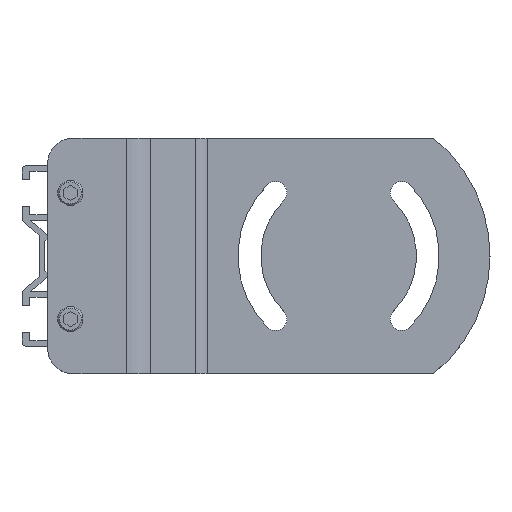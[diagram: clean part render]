
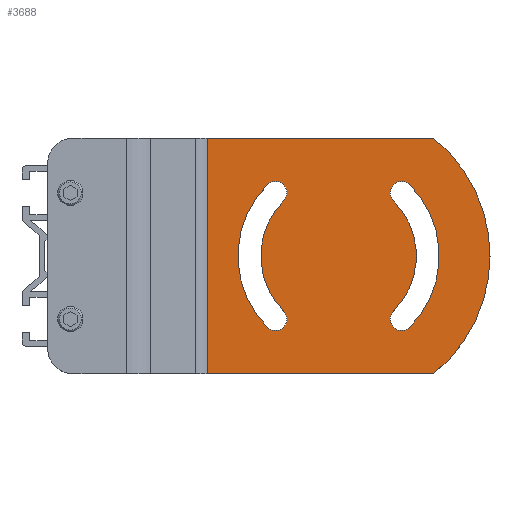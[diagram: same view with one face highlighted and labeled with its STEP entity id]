
A CAD part, left-side view. The second image highlights one B-rep face of the part: STEP entity #3688.
In plain terms, the highlighted planar face has unit normal (-1, 0, 0) as drawn and (0, 0, -1) by its records, which use the part's own axes.
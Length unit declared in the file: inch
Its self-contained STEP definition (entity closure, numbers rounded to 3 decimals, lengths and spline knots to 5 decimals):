
#3079=DIRECTION('',(0.,-1.,0.));
#3080=VECTOR('',#3079,3.36221);
#3081=CARTESIAN_POINT('',(0.,4.198,-0.25));
#3082=LINE('',#3081,#3080);
#3119=DIRECTION('',(0.,-1.,0.));
#3120=VECTOR('',#3119,3.36221);
#3121=CARTESIAN_POINT('',(-3.5,4.198,-0.25));
#3122=LINE('',#3121,#3120);
#3131=CARTESIAN_POINT('',(-1.75,2.25,-0.25));
#3132=DIRECTION('',(0.,0.,1.));
#3133=DIRECTION('',(0.,-1.,0.));
#3134=AXIS2_PLACEMENT_3D('',#3131,#3132,#3133);
#3136=DIRECTION('',(-1.,0.,0.));
#3137=VECTOR('',#3136,3.5);
#3138=CARTESIAN_POINT('',(0.,4.198,-0.25));
#3139=LINE('',#3138,#3137);
#3140=CARTESIAN_POINT('',(-1.75,2.25,-0.25));
#3141=DIRECTION('',(0.,0.,1.));
#3142=DIRECTION('',(-0.778,-0.629,0.));
#3143=AXIS2_PLACEMENT_3D('',#3140,#3141,#3142);
#3145=CARTESIAN_POINT('',(-1.75,2.25,-0.25));
#3146=DIRECTION('',(0.,0.,1.));
#3147=DIRECTION('',(-0.707,-0.707,0.));
#3148=AXIS2_PLACEMENT_3D('',#3145,#3146,#3147);
#3150=CARTESIAN_POINT('',(-0.81238,1.31238,-0.25));
#3151=DIRECTION('',(0.,0.,1.));
#3152=DIRECTION('',(0.707,-0.707,0.));
#3153=AXIS2_PLACEMENT_3D('',#3150,#3151,#3152);
#3155=CARTESIAN_POINT('',(-1.75,2.25,-0.25));
#3156=DIRECTION('',(0.,0.,1.));
#3157=DIRECTION('',(-0.707,-0.707,0.));
#3158=AXIS2_PLACEMENT_3D('',#3155,#3156,#3157);
#3160=CARTESIAN_POINT('',(-2.68762,1.31238,-0.25));
#3161=DIRECTION('',(0.,0.,1.));
#3162=DIRECTION('',(0.707,0.707,0.));
#3163=AXIS2_PLACEMENT_3D('',#3160,#3161,#3162);
#3165=CARTESIAN_POINT('',(-1.75,2.25,-0.25));
#3166=DIRECTION('',(0.,0.,1.));
#3167=DIRECTION('',(0.707,0.707,0.));
#3168=AXIS2_PLACEMENT_3D('',#3165,#3166,#3167);
#3170=CARTESIAN_POINT('',(-2.68762,3.18762,-0.25));
#3171=DIRECTION('',(0.,0.,1.));
#3172=DIRECTION('',(-0.707,0.707,0.));
#3173=AXIS2_PLACEMENT_3D('',#3170,#3171,#3172);
#3175=CARTESIAN_POINT('',(-1.75,2.25,-0.25));
#3176=DIRECTION('',(0.,0.,1.));
#3177=DIRECTION('',(0.707,0.707,0.));
#3178=AXIS2_PLACEMENT_3D('',#3175,#3176,#3177);
#3180=CARTESIAN_POINT('',(-0.81238,3.18762,-0.25));
#3181=DIRECTION('',(0.,0.,1.));
#3182=DIRECTION('',(-0.707,-0.707,0.));
#3183=AXIS2_PLACEMENT_3D('',#3180,#3181,#3182);
#3431=CARTESIAN_POINT('',(0.,4.198,-0.25));
#3432=VERTEX_POINT('',#3431);
#3439=CARTESIAN_POINT('',(-3.5,4.198,-0.25));
#3440=VERTEX_POINT('',#3439);
#3459=CARTESIAN_POINT('',(-3.5,0.83579,-0.25));
#3460=VERTEX_POINT('',#3459);
#3465=CARTESIAN_POINT('',(-1.75,0.,-0.25));
#3466=CARTESIAN_POINT('',(0.,0.83579,-0.25));
#3467=VERTEX_POINT('',#3465);
#3468=VERTEX_POINT('',#3466);
#3485=CARTESIAN_POINT('',(-0.93258,3.06742,-0.25));
#3486=CARTESIAN_POINT('',(-2.56742,3.06742,-0.25));
#3487=VERTEX_POINT('',#3485);
#3488=VERTEX_POINT('',#3486);
#3489=CARTESIAN_POINT('',(-2.80783,3.30783,-0.25));
#3490=VERTEX_POINT('',#3489);
#3491=CARTESIAN_POINT('',(-0.69217,3.30783,-0.25));
#3492=VERTEX_POINT('',#3491);
#3493=CARTESIAN_POINT('',(-2.56742,1.43258,-0.25));
#3494=CARTESIAN_POINT('',(-0.93258,1.43258,-0.25));
#3495=VERTEX_POINT('',#3493);
#3496=VERTEX_POINT('',#3494);
#3497=CARTESIAN_POINT('',(-0.69217,1.19217,-0.25));
#3498=VERTEX_POINT('',#3497);
#3499=CARTESIAN_POINT('',(-2.80783,1.19217,-0.25));
#3500=VERTEX_POINT('',#3499);
#3655=CARTESIAN_POINT('',(0.,4.198,-0.25));
#3656=DIRECTION('',(0.,0.,1.));
#3657=DIRECTION('',(0.,-1.,0.));
#3658=AXIS2_PLACEMENT_3D('',#3655,#3656,#3657);
#3659=PLANE('',#3658);
#3660=ORIENTED_EDGE('',*,*,#3563,.T.);
#3661=ORIENTED_EDGE('',*,*,#3579,.F.);
#3663=ORIENTED_EDGE('',*,*,#3662,.T.);
#3664=ORIENTED_EDGE('',*,*,#3635,.T.);
#3665=ORIENTED_EDGE('',*,*,#3648,.T.);
#3666=EDGE_LOOP('',(#3660,#3661,#3663,#3664,#3665));
#3667=FACE_OUTER_BOUND('',#3666,.F.);
#3669=ORIENTED_EDGE('',*,*,#3668,.T.);
#3671=ORIENTED_EDGE('',*,*,#3670,.F.);
#3673=ORIENTED_EDGE('',*,*,#3672,.F.);
#3675=ORIENTED_EDGE('',*,*,#3674,.F.);
#3676=EDGE_LOOP('',(#3669,#3671,#3673,#3675));
#3677=FACE_BOUND('',#3676,.F.);
#3679=ORIENTED_EDGE('',*,*,#3678,.T.);
#3681=ORIENTED_EDGE('',*,*,#3680,.F.);
#3683=ORIENTED_EDGE('',*,*,#3682,.F.);
#3685=ORIENTED_EDGE('',*,*,#3684,.F.);
#3686=EDGE_LOOP('',(#3679,#3681,#3683,#3685));
#3687=FACE_BOUND('',#3686,.F.);
#3135=CIRCLE('',#3134,2.25);
#3144=CIRCLE('',#3143,2.25);
#3149=CIRCLE('',#3148,1.156);
#3154=CIRCLE('',#3153,0.17);
#3159=CIRCLE('',#3158,1.496);
#3164=CIRCLE('',#3163,0.17);
#3169=CIRCLE('',#3168,1.156);
#3174=CIRCLE('',#3173,0.17);
#3179=CIRCLE('',#3178,1.496);
#3184=CIRCLE('',#3183,0.17);
#3563=EDGE_CURVE('',#3467,#3468,#3135,.T.);
#3579=EDGE_CURVE('',#3432,#3468,#3082,.T.);
#3635=EDGE_CURVE('',#3440,#3460,#3122,.T.);
#3648=EDGE_CURVE('',#3460,#3467,#3144,.T.);
#3662=EDGE_CURVE('',#3432,#3440,#3139,.T.);
#3668=EDGE_CURVE('',#3495,#3496,#3149,.T.);
#3670=EDGE_CURVE('',#3498,#3496,#3154,.T.);
#3672=EDGE_CURVE('',#3500,#3498,#3159,.T.);
#3674=EDGE_CURVE('',#3495,#3500,#3164,.T.);
#3678=EDGE_CURVE('',#3487,#3488,#3169,.T.);
#3680=EDGE_CURVE('',#3490,#3488,#3174,.T.);
#3682=EDGE_CURVE('',#3492,#3490,#3179,.T.);
#3684=EDGE_CURVE('',#3487,#3492,#3184,.T.);
#3688=ADVANCED_FACE('',(#3667,#3677,#3687),#3659,.F.);
